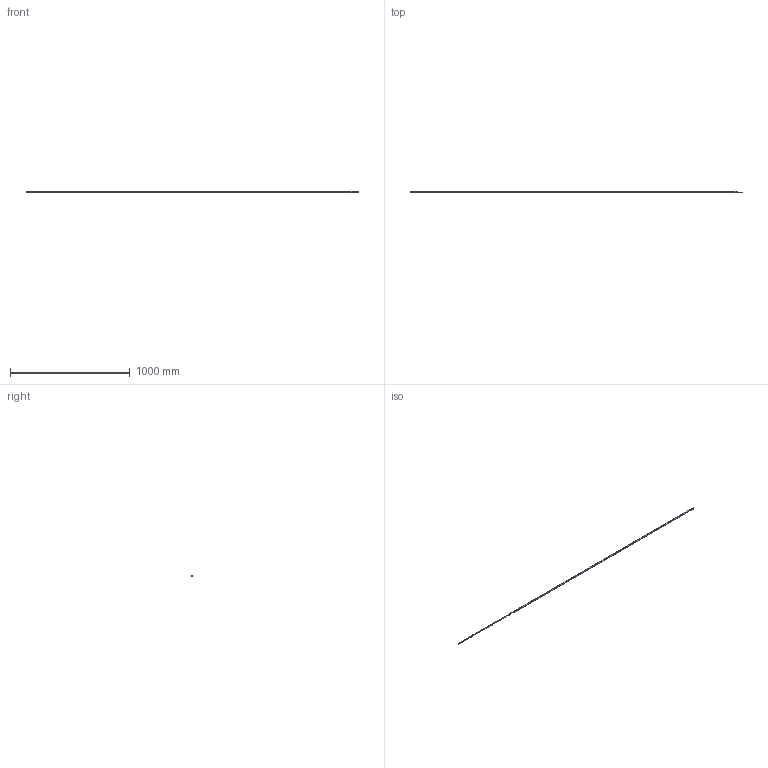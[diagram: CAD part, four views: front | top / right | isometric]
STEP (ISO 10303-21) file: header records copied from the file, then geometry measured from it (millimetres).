
FILE_DESCRIPTION(/* description */ (''),/* implementation_level */ '2;1');
FILE_NAME(/* name */ 'E:\Dutton\Manufacturing\drawings\Dutton Files\Ground Kits\BWJ6A108.stp',/* time_stamp */ '2023-09-07T14:16:35-04:00',/* author */ ('tfoster'),/* organization */ (''),/* preprocessor_version */ 'ST-DEVELOPER v19',/* originating_system */ 'Autodesk Inventor 2023',/* authorisation */ '');
FILE_SCHEMA (('AUTOMOTIVE_DESIGN { 1 0 10303 214 3 1 1 }'));
Length unit declared in the file: millimetre
Products named in the file (1): BWJ6A108
Bounding box: 2767.2 x 8.62 x 11.18 mm (x, y, z)
Volume: 146526.6 mm3; surface area: 79952.3 mm2
Topology: 1 solids, 1 shells, 25 faces, 61 edges, 42 vertices
Faces by surface type: plane 12, bspline 7, cylinder 6
Full cylindrical faces by diameter (mm): 7.137 x2, 8.255 x1, 8.382 x1, 8.636 x1
Entity records: 10884 total; most frequent: CARTESIAN_POINT 10186, ORIENTED_EDGE 122, DIRECTION 109, EDGE_CURVE 61, VERTEX_POINT 42, AXIS2_PLACEMENT_3D 37, LINE 35, VECTOR 35
